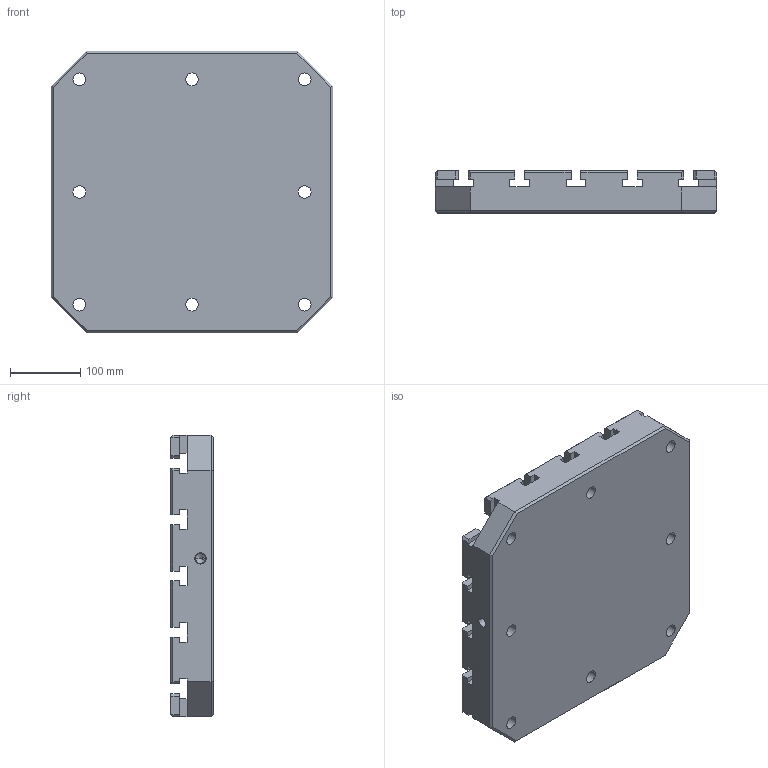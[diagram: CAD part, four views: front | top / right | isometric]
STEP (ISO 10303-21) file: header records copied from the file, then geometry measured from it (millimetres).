
FILE_DESCRIPTION((''),'2;1');
FILE_NAME('FG_WH_BASPL_SQTSLNP001','2026-05-17T12:51:05',('Admin'),(''),'CREO PARAMETRIC BY PTC INC, 2025010','CREO PARAMETRIC BY PTC INC, 2025010','');
FILE_SCHEMA(('CONFIG_CONTROL_DESIGN'));
Length unit declared in the file: millimetre
Products named in the file (1): FG_WH_BASPL_SQTSLNP001
Bounding box: 400 x 60 x 400 mm (x, y, z)
Volume: 7554548.9 mm3; surface area: 617859.9 mm2
Topology: 1 solids, 4 shells, 419 faces, 1106 edges, 729 vertices
Faces by surface type: plane 341, cylinder 72, cone 6
Entity records: 12830 total; most frequent: CARTESIAN_POINT 2249, ORIENTED_EDGE 2188, DIRECTION 2090, EDGE_CURVE 1100, VECTOR 950, LINE 950, VERTEX_POINT 729, AXIS2_PLACEMENT_3D 570
